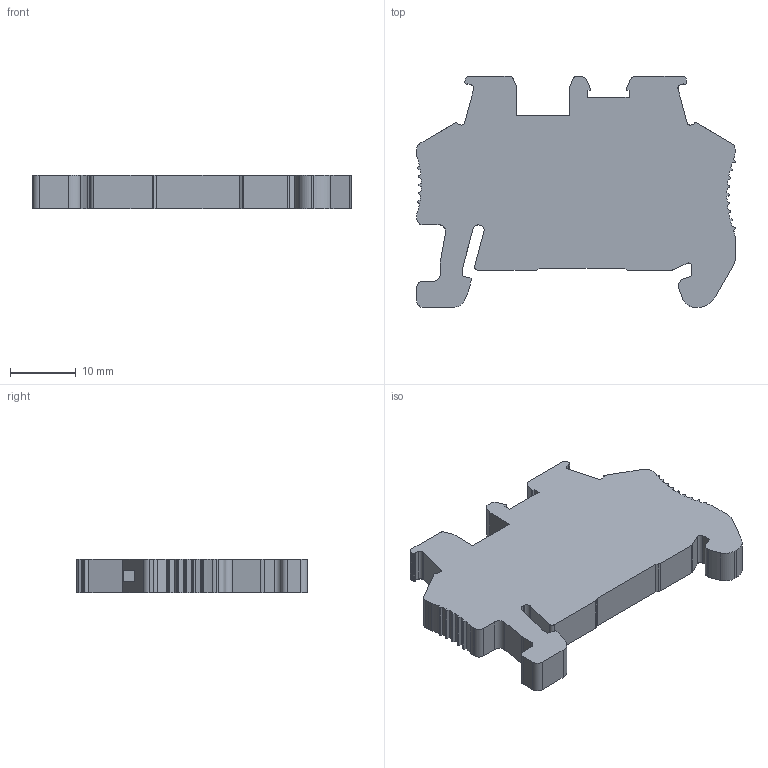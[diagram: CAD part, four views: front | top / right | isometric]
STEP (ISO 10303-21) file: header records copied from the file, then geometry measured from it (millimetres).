
FILE_DESCRIPTION(('SolidDesigner STEP Export'),'2;1');
FILE_NAME('3022276_clipfix_35_5-select.stp','2004-03-10T 8:58:43',(''),(''),'OneSpaceDesigner STEP processor Version: 9.0 (March 2001)for AP203(Solid Model)','CoCreate OneSpaceDesigner: 11.50A 18-Jul-2002(C) CoCreate Software GmbH','');
FILE_SCHEMA(('CONFIG_CONTROL_DESIGN'));
Length unit declared in the file: millimetre
Products named in the file (2): 3022276_clipfix_35_5-select
Assembly tree (1 placements, depth 2):
  3022276_clipfix_35_5-select
    3022276_clipfix_35_5-select
Bounding box: 48.63 x 35.25 x 5.15 mm (x, y, z)
Volume: 6241.3 mm3; surface area: 3832.1 mm2
Topology: 1 solids, 1 shells, 220 faces, 639 edges, 426 vertices
Faces by surface type: plane 121, cylinder 99
Entity records: 8900 total; most frequent: ORIENTED_EDGE 1278, CARTESIAN_POINT 1210, DIRECTION 1129, EDGE_CURVE 639, VECTOR 439, LINE 439, VERTEX_POINT 426, AXIS2_PLACEMENT_3D 345
